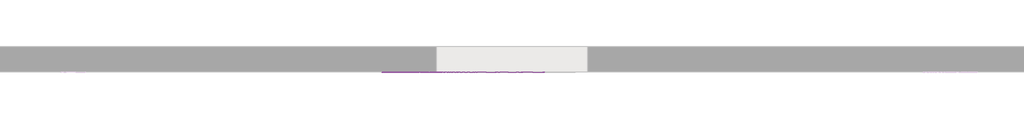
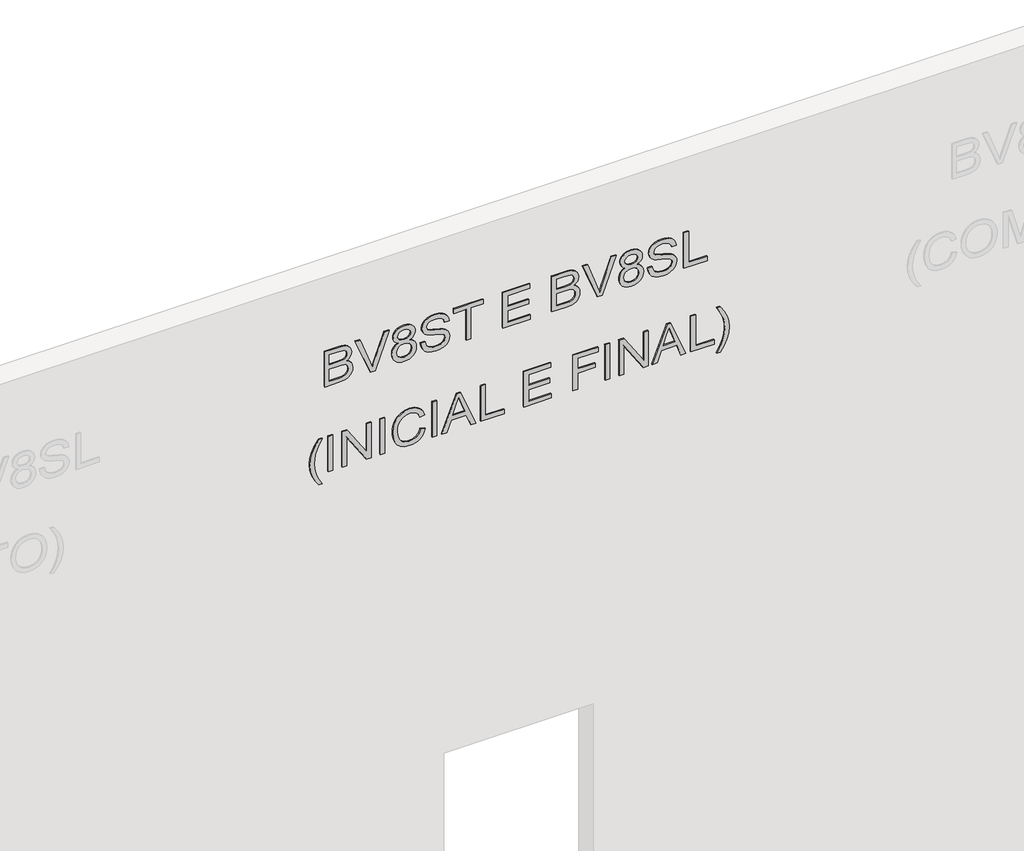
# One storey, part 4 of 5: 1 proxy.
"""IFC4 building model written with IfcOpenShell, lengths in millimetres."""

from ifc_helpers import new_model, si_unit, frame, origin, place, context, project, spatial, polyline, outline, extrude, element, save

model = new_model("IFC4")

# Units and contexts
model_context = context("Model", 3, world=origin())
ifc_project = project(units=[si_unit("LENGTHUNIT", "METRE", prefix="MILLI")], contexts=[model_context])

# Site, building, storey
site = spatial("IfcSite", under=ifc_project)
building = spatial("IfcBuilding", under=site)
storey = spatial("IfcBuildingStorey", under=building, Name="01 - Marelli - Planta Baixa - Painel Simples", Elevation=0.0)

# Proxy
placement = place(None, origin())
element("IfcBuildingElementProxy", 1, Name="300mm Arial", ObjectType="300mm Arial", at=placement, inside=storey, context=model_context, shape_type="SweptSolid", body=[
    extrude(outline(polyline([(6065.9244535, 17304.6035139), (6065.9244535, 17418.7205088), (6071.1115897, 17467.0234148), (6077.5311305, 17485.0588296), (6086.4154807, 17499.8017006), (6098.6843452, 17511.8406388), (6115.2574291, 17521.7642557), (6134.7459778, 17528.4137227), (6155.7612368, 17530.6302117), (6180.9795475, 17527.3836531), (6202.6294029, 17517.6439773), (6219.5887629, 17501.8710368), (6230.7355874, 17480.524684), (6242.4802201, 17498.3945519), (6257.407032, 17511.0956778), (6274.4675596, 17518.683244), (6292.613339, 17521.2124327), (6312.3318139, 17518.2049974), (6331.1673721, 17509.1826914), (6347.1794359, 17494.8536877), (6358.4274279, 17475.9261591), (6365.076895, 17451.2320801), (6367.293384, 17419.6034256), (6367.293384, 17304.6035139), (6065.9244535, 17304.6035139)]), holes=[polyline([(6244.862256, 17342.2746302), (6329.6222677, 17342.2746302), (6329.6222677, 17405.844639), (6325.6859303, 17454.2579095), (6320.084927, 17466.7475033), (6311.1545915, 17475.9629473), (6299.7134615, 17481.6467241), (6286.5800742, 17483.5413164), (6273.0512139, 17481.5087683), (6262.0423452, 17475.4111243), (6253.6822268, 17465.3035665), (6248.0996175, 17451.2412772), (6244.862256, 17411.0685633), (6244.862256, 17342.2746302)]), polyline([(6103.5955698, 17342.2746302), (6207.1911397, 17342.2746302), (6207.1911397, 17415.8510293), (6205.9311438, 17442.6788238), (6202.1511563, 17462.3881016), (6195.262566, 17476.3032381), (6184.6767616, 17485.7486083), (6171.1387042, 17491.1564737), (6155.3933548, 17492.9590954), (6141.8369032, 17491.4231881), (6130.0094971, 17486.8154661), (6113.2708663, 17471.1436931), (6105.0670978, 17447.4888808), (6103.5955698, 17419.5298492), (6103.5955698, 17342.2746302)])]), frame((0.0, 8778.3159498, 0.0), z_axis=(0.0, 1.0, 0.0), x_axis=(0.0, 0.0, 1.0)), (0.0, 0.0, 1.0), 10.0),
    extrude(outline(polyline([(6065.9244535, 17671.4554395), (6065.9244535, 17710.3773546), (6367.293384, 17825.2301135), (6367.293384, 17784.9102468), (6150.1694304, 17704.4176663), (6101.2411251, 17688.3780113), (6150.1694304, 17672.1176271), (6367.293384, 17591.8457757), (6367.293384, 17551.5259091), (6065.9244535, 17671.4554395)])), frame((0.0, 8778.3159498, 0.0), z_axis=(0.0, 1.0, 0.0), x_axis=(0.0, 0.0, 1.0)), (0.0, 0.0, 1.0), 10.0),
    extrude(outline(polyline([(6231.9128098, 17901.0138045), (6221.4281729, 17877.690086), (6204.5423893, 17860.3996322), (6182.0280112, 17849.6942662), (6154.6575908, 17846.1258108), (6135.5070337, 17847.827265), (6118.007347, 17852.9316277), (6102.1585308, 17861.4388989), (6087.960585, 17873.3490785), (6076.2596383, 17888.0367671), (6067.9018193, 17904.8765654), (6062.8871278, 17923.8684734), (6061.215564, 17945.0124911), (6062.88023, 17966.1565088), (6067.8742281, 17985.1484168), (6076.1975583, 18001.9882151), (6087.8502204, 18016.6759038), (6101.9492979, 18028.5860834), (6117.6118739, 18037.0933545), (6134.8379483, 18042.1977172), (6153.6275212, 18043.8991714), (6179.9770691, 18040.4686718), (6202.3718855, 18030.177173), (6219.965842, 18013.3005865), (6231.9128098, 17990.1148237), (6241.8180325, 18009.6401606), (6255.1997401, 18023.4817207), (6271.6348682, 18031.7314744), (6290.7003526, 18034.4813923), (6306.0962141, 18032.936288), (6320.278065, 18028.3009748), (6333.2459053, 18020.5754529), (6344.9997351, 18009.7597223), (6354.7532065, 17996.4102044), (6361.7199718, 17981.0833207), (6367.293384, 17944.4974563), (6361.8487305, 17908.1323211), (6355.0429135, 17892.9709844), (6345.5147699, 17879.8238016), (6333.9862678, 17869.201209), (6321.1793759, 17861.6136428), (6307.094094, 17857.0611031), (6291.7304222, 17855.5435899), (6272.0303413, 17858.330296), (6255.3101047, 17866.6904143), (6241.8456236, 17880.8446741), (6231.9128098, 17901.0138045)]), holes=[polyline([(6290.6267762, 17893.2147062), (6305.525997, 17896.6084176), (6318.1443494, 17906.7895518), (6326.7527881, 17923.1327095), (6329.6222677, 17945.0124911), (6326.6884088, 17966.754317), (6317.886832, 17983.1250658), (6304.781036, 17993.3889735), (6288.934519, 17996.810276), (6273.6674162, 17993.4993381), (6260.9754874, 17983.5665242), (6252.422231, 17967.4165046), (6249.5711455, 17945.4539495), (6252.4406251, 17922.9671626), (6261.0490638, 17906.5688226), (6274.182451, 17896.5532353), (6290.6267762, 17893.2147062)]), polyline([(6155.981966, 17883.7969271), (6177.9629152, 17887.7792497), (6195.9339506, 17899.7262175), (6207.9085096, 17918.7733078), (6211.9000292, 17944.0559979), (6207.8533273, 17969.9916786), (6195.7132214, 17989.6733653), (6177.3926981, 18002.0893827), (6154.8047436, 18006.2280551), (6132.5938681, 18002.2181414), (6114.6688179, 17990.1884001), (6102.8322147, 17970.9481718), (6098.8866803, 17945.3067967), (6100.7628785, 17928.5681659), (6106.391473, 17912.3445699), (6115.4505671, 17898.7973155), (6127.6182641, 17890.0877092), (6155.981966, 17883.7969271)])]), frame((0.0, 8778.3159498, 0.0), z_axis=(0.0, 1.0, 0.0), x_axis=(0.0, 0.0, 1.0)), (0.0, 0.0, 1.0), 10.0),
    extrude(outline(polyline([(6169.5200234, 18076.8613982), (6139.0961824, 18081.3311644), (6111.9832793, 18093.1217824), (6089.7264186, 18111.488291), (6073.8707046, 18135.6857292), (6064.3793492, 18166.063585), (6061.215564, 18202.9713461), (6064.1494229, 18233.0365022), (6072.9509996, 18259.9562672), (6087.0408801, 18282.3418866), (6105.83965, 18298.8046059), (6127.6826435, 18308.9305578), (6150.9051944, 18312.3058751), (6173.6219076, 18309.3720162), (6193.5059295, 18300.5704395), (6210.3733189, 18285.5884452), (6224.0401351, 18264.1133337), (6232.8509088, 18238.9869935), (6242.9492696, 18197.4531162), (6253.5810593, 18157.2068259), (6263.9921197, 18135.9432466), (6275.6355849, 18126.9485318), (6290.1117414, 18123.9502936), (6307.0894955, 18128.1809365), (6321.381711, 18140.8728653), (6331.0937957, 18162.8170264), (6334.3311572, 18194.8043658), (6331.0570075, 18226.0559413), (6321.2345582, 18248.5887135), (6305.0109622, 18263.0096877), (6282.5333723, 18269.9258693), (6282.5333723, 18307.5969856), (6307.4941657, 18303.3479485), (6329.6958441, 18292.6609766), (6347.9979733, 18275.775193), (6361.2601193, 18252.9297211), (6369.316735, 18225.1178422), (6372.0022735, 18193.3328379), (6369.4362966, 18163.9942487), (6361.7383659, 18137.488351), (6349.0832252, 18115.4062342), (6331.6456187, 18099.3389881), (6311.0718181, 18089.54413), (6289.0080954, 18086.2791773), (6269.2712264, 18088.9187306), (6251.5577083, 18096.8373905), (6236.198635, 18110.1271276), (6223.5251003, 18128.8799123), (6214.4660061, 18151.9185223), (6204.9470595, 18187.9249725), (6190.5628735, 18242.776178), (6182.7545782, 18258.8526212), (6173.4563607, 18268.3807649), (6162.5578566, 18273.0712603), (6149.9487012, 18274.6347588), (6137.0084521, 18272.5470285), (6124.6752082, 18266.2838375), (6113.9330539, 18255.7532154), (6105.7660736, 18240.8631916), (6100.6065286, 18222.487486), (6098.8866803, 18201.4998182), (6101.1583516, 18177.6610649), (6107.9733656, 18156.3239091), (6118.4763965, 18138.8679085), (6131.8121189, 18126.6726203), (6148.615129, 18118.8551279), (6169.5200234, 18114.5325145), (6169.5200234, 18076.8613982)])), frame((0.0, 8778.3159498, 0.0), z_axis=(0.0, 1.0, 0.0), x_axis=(0.0, 0.0, 1.0)), (0.0, 0.0, 1.0), 10.0),
    extrude(outline(polyline([(6065.9244535, 18444.1547822), (6065.9244535, 18481.8258985), (6329.6222677, 18481.8258985), (6329.6222677, 18580.7125788), (6367.293384, 18580.7125788), (6367.293384, 18345.2681019), (6329.6222677, 18345.2681019), (6329.6222677, 18444.1547822), (6065.9244535, 18444.1547822)])), frame((0.0, 8778.3159498, 0.0), z_axis=(0.0, 1.0, 0.0), x_axis=(0.0, 0.0, 1.0)), (0.0, 0.0, 1.0), 10.0),
    extrude(outline(polyline([(6065.9244535, 18740.8148231), (6065.9244535, 18962.1326314), (6103.5955698, 18962.1326314), (6103.5955698, 18778.4859394), (6202.4822501, 18778.4859394), (6202.4822501, 18948.0059628), (6240.1533665, 18948.0059628), (6240.1533665, 18778.4859394), (6329.6222677, 18778.4859394), (6329.6222677, 18957.4237418), (6367.293384, 18957.4237418), (6367.293384, 18740.8148231), (6065.9244535, 18740.8148231)])), frame((0.0, 8778.3159498, 0.0), z_axis=(0.0, 1.0, 0.0), x_axis=(0.0, 0.0, 1.0)), (0.0, 0.0, 1.0), 10.0),
    extrude(outline(polyline([(6065.9244535, 19136.3615443), (6065.9244535, 19250.4785392), (6071.1115897, 19298.7814452), (6077.5311305, 19316.81686), (6086.4154807, 19331.5597309), (6098.6843452, 19343.5986692), (6115.2574291, 19353.522286), (6134.7459778, 19360.1717531), (6155.7612368, 19362.3882421), (6180.9795475, 19359.1416835), (6202.6294029, 19349.4020077), (6219.5887629, 19333.6290672), (6230.7355874, 19312.2827144), (6242.4802201, 19330.1525823), (6257.407032, 19342.8537082), (6274.4675596, 19350.4412743), (6292.613339, 19352.9704631), (6312.3318139, 19349.9630277), (6331.1673721, 19340.9407218), (6347.1794359, 19326.6117181), (6358.4274279, 19307.6841894), (6365.076895, 19282.9901105), (6367.293384, 19251.361456), (6367.293384, 19136.3615443), (6065.9244535, 19136.3615443)]), holes=[polyline([(6244.862256, 19174.0326606), (6329.6222677, 19174.0326606), (6329.6222677, 19237.6026694), (6325.6859303, 19286.0159399), (6320.084927, 19298.5055337), (6311.1545915, 19307.7209776), (6299.7134615, 19313.4047545), (6286.5800742, 19315.2993467), (6273.0512139, 19313.2667987), (6262.0423452, 19307.1691547), (6253.6822268, 19297.0615968), (6248.0996175, 19282.9993076), (6244.862256, 19242.8265937), (6244.862256, 19174.0326606)]), polyline([(6103.5955698, 19174.0326606), (6207.1911397, 19174.0326606), (6207.1911397, 19247.6090596), (6205.9311438, 19274.4368541), (6202.1511563, 19294.146132), (6195.262566, 19308.0612685), (6184.6767616, 19317.5066387), (6171.1387042, 19322.914504), (6155.3933548, 19324.7171258), (6141.8369032, 19323.1812185), (6130.0094971, 19318.5734965), (6113.2708663, 19302.9017235), (6105.0670978, 19279.2469112), (6103.5955698, 19251.2878796), (6103.5955698, 19174.0326606)])]), frame((0.0, 8778.3159498, 0.0), z_axis=(0.0, 1.0, 0.0), x_axis=(0.0, 0.0, 1.0)), (0.0, 0.0, 1.0), 10.0),
    extrude(outline(polyline([(6065.9244535, 19503.2134699), (6065.9244535, 19542.135385), (6367.293384, 19656.9881439), (6367.293384, 19616.6682772), (6150.1694304, 19536.1756967), (6101.2411251, 19520.1360417), (6150.1694304, 19503.8756575), (6367.293384, 19423.6038061), (6367.293384, 19383.2839395), (6065.9244535, 19503.2134699)])), frame((0.0, 8778.3159498, 0.0), z_axis=(0.0, 1.0, 0.0), x_axis=(0.0, 0.0, 1.0)), (0.0, 0.0, 1.0), 10.0),
    extrude(outline(polyline([(6231.9128098, 19732.7718349), (6221.4281729, 19709.4481164), (6204.5423893, 19692.1576626), (6182.0280112, 19681.4522965), (6154.6575908, 19677.8838412), (6135.5070337, 19679.5852954), (6118.007347, 19684.6896581), (6102.1585308, 19693.1969292), (6087.960585, 19705.1071088), (6076.2596383, 19719.7947975), (6067.9018193, 19736.6345958), (6062.8871278, 19755.6265038), (6061.215564, 19776.7705215), (6062.88023, 19797.9145392), (6067.8742281, 19816.9064472), (6076.1975583, 19833.7462455), (6087.8502204, 19848.4339342), (6101.9492979, 19860.3441138), (6117.6118739, 19868.8513849), (6134.8379483, 19873.9557476), (6153.6275212, 19875.6572018), (6179.9770691, 19872.2267022), (6202.3718855, 19861.9352034), (6219.965842, 19845.0586169), (6231.9128098, 19821.8728541), (6241.8180325, 19841.398191), (6255.1997401, 19855.2397511), (6271.6348682, 19863.4895048), (6290.7003526, 19866.2394227), (6306.0962141, 19864.6943183), (6320.278065, 19860.0590052), (6333.2459053, 19852.3334833), (6344.9997351, 19841.5177527), (6354.7532065, 19828.1682348), (6361.7199718, 19812.8413511), (6367.293384, 19776.2554867), (6361.8487305, 19739.8903515), (6355.0429135, 19724.7290148), (6345.5147699, 19711.581832), (6333.9862678, 19700.9592393), (6321.1793759, 19693.3716732), (6307.094094, 19688.8191335), (6291.7304222, 19687.3016203), (6272.0303413, 19690.0883264), (6255.3101047, 19698.4484447), (6241.8456236, 19712.6027045), (6231.9128098, 19732.7718349)]), holes=[polyline([(6155.981966, 19715.5549575), (6177.9629152, 19719.5372801), (6195.9339506, 19731.4842479), (6207.9085096, 19750.5313382), (6211.9000292, 19775.8140283), (6207.8533273, 19801.749709), (6195.7132214, 19821.4313957), (6177.3926981, 19833.8474131), (6154.8047436, 19837.9860855), (6132.5938681, 19833.9761717), (6114.6688179, 19821.9464305), (6102.8322147, 19802.7062022), (6098.8866803, 19777.0648271), (6100.7628785, 19760.3261963), (6106.391473, 19744.1026003), (6115.4505671, 19730.5553459), (6127.6182641, 19721.8457396), (6155.981966, 19715.5549575)]), polyline([(6290.6267762, 19724.9727366), (6305.525997, 19728.366448), (6318.1443494, 19738.5475822), (6326.7527881, 19754.8907398), (6329.6222677, 19776.7705215), (6326.6884088, 19798.5123474), (6317.886832, 19814.8830962), (6304.781036, 19825.1470039), (6288.934519, 19828.5683064), (6273.6674162, 19825.2573685), (6260.9754874, 19815.3245546), (6252.422231, 19799.174535), (6249.5711455, 19777.2119799), (6252.4406251, 19754.7251929), (6261.0490638, 19738.326853), (6274.182451, 19728.3112657), (6290.6267762, 19724.9727366)])]), frame((0.0, 8778.3159498, 0.0), z_axis=(0.0, 1.0, 0.0), x_axis=(0.0, 0.0, 1.0)), (0.0, 0.0, 1.0), 10.0),
    extrude(outline(polyline([(6169.5200234, 19908.6194286), (6139.0961824, 19913.0891948), (6111.9832793, 19924.8798128), (6089.7264186, 19943.2463214), (6073.8707046, 19967.4437596), (6064.3793492, 19997.8216154), (6061.215564, 20034.7293765), (6064.1494229, 20064.7945326), (6072.9509996, 20091.7142976), (6087.0408801, 20114.099917), (6105.83965, 20130.5626363), (6127.6826435, 20140.6885882), (6150.9051944, 20144.0639055), (6173.6219076, 20141.1300466), (6193.5059295, 20132.3284698), (6210.3733189, 20117.3464756), (6224.0401351, 20095.8713641), (6232.8509088, 20070.7450238), (6242.9492696, 20029.2111466), (6253.5810593, 19988.9648563), (6263.9921197, 19967.701277), (6275.6355849, 19958.7065622), (6290.1117414, 19955.708324), (6307.0894955, 19959.9389669), (6321.381711, 19972.6308957), (6331.0937957, 19994.5750567), (6334.3311572, 20026.5623962), (6331.0570075, 20057.8139717), (6321.2345582, 20080.3467439), (6305.0109622, 20094.7677181), (6282.5333723, 20101.6838996), (6282.5333723, 20139.3550159), (6307.4941657, 20135.1059789), (6329.6958441, 20124.4190069), (6347.9979733, 20107.5332234), (6361.2601193, 20084.6877515), (6369.316735, 20056.8758726), (6372.0022735, 20025.0908682), (6369.4362966, 19995.7522791), (6361.7383659, 19969.2463814), (6349.0832252, 19947.1642646), (6331.6456187, 19931.0970185), (6311.0718181, 19921.3021604), (6289.0080954, 19918.0372076), (6269.2712264, 19920.676761), (6251.5577083, 19928.5954209), (6236.198635, 19941.885158), (6223.5251003, 19960.6379427), (6214.4660061, 19983.6765526), (6204.9470595, 20019.6830029), (6190.5628735, 20074.5342084), (6182.7545782, 20090.6106516), (6173.4563607, 20100.1387953), (6162.5578566, 20104.8292907), (6149.9487012, 20106.3927892), (6137.0084521, 20104.3050589), (6124.6752082, 20098.0418679), (6113.9330539, 20087.5112458), (6105.7660736, 20072.621222), (6100.6065286, 20054.2455164), (6098.8866803, 20033.2578485), (6101.1583516, 20009.4190952), (6107.9733656, 19988.0819395), (6118.4763965, 19970.6259389), (6131.8121189, 19958.4306507), (6148.615129, 19950.6131583), (6169.5200234, 19946.2905449), (6169.5200234, 19908.6194286)])), frame((0.0, 8778.3159498, 0.0), z_axis=(0.0, 1.0, 0.0), x_axis=(0.0, 0.0, 1.0)), (0.0, 0.0, 1.0), 10.0),
    extrude(outline(polyline([(6065.9244535, 20200.5705799), (6065.9244535, 20388.9261615), (6103.5955698, 20388.9261615), (6103.5955698, 20238.2416962), (6367.293384, 20238.2416962), (6367.293384, 20200.5705799), (6065.9244535, 20200.5705799)])), frame((0.0, 8778.3159498, 0.0), z_axis=(0.0, 1.0, 0.0), x_axis=(0.0, 0.0, 1.0)), (0.0, 0.0, 1.0), 10.0),
    extrude(outline(polyline([(5249.3155348, 17257.5146185), (5249.3155348, 17285.7679558), (5297.5540614, 17256.9260073), (5345.8109821, 17236.3246156), (5394.0862969, 17223.9637806), (5442.3800058, 17219.8435022), (5480.2534572, 17222.2163411), (5517.9429677, 17229.3348577), (5575.7740173, 17250.5248606), (5635.4444769, 17285.7679558), (5635.4444769, 17257.5146185), (5584.934279, 17222.8233464), (5534.2033518, 17198.5063465), (5489.4137189, 17186.2558761), (5442.600735, 17182.1723859), (5389.2210575, 17187.6354335), (5337.68079, 17204.0245764), (5290.2791949, 17228.3231822), (5249.3155348, 17257.5146185)])), frame((0.0, 8778.3159498, 0.0), z_axis=(0.0, 1.0, 0.0), x_axis=(0.0, 0.0, 1.0)), (0.0, 0.0, 1.0), 10.0),
    extrude(outline(polyline([(17370.5279674, 8778.3159498), (17332.8568511, 8778.3159498), (17332.8568511, 8788.3159498), (17370.5279674, 8788.3159498), (17370.5279674, 8778.3159498)])), frame((0.0, 0.0, 5334.0755465), z_axis=(0.0, 0.0, 1.0), x_axis=(1.0, 0.0, 0.0)), (0.0, 0.0, 1.0), 301.3689304),
    extrude(outline(polyline([(5334.0755465, 17445.8702001), (5334.0755465, 17483.5413164), (5572.9045377, 17483.5413164), (5334.0755465, 17640.9948103), (5334.0755465, 17681.314677), (5635.4444769, 17681.314677), (5635.4444769, 17643.6435607), (5396.689062, 17643.6435607), (5635.4444769, 17486.1900667), (5635.4444769, 17445.8702001), (5334.0755465, 17445.8702001)])), frame((0.0, 8778.3159498, 0.0), z_axis=(0.0, 1.0, 0.0), x_axis=(0.0, 0.0, 1.0)), (0.0, 0.0, 1.0), 10.0),
    extrude(outline(polyline([(17789.6191364, 8778.3159498), (17751.94802, 8778.3159498), (17751.94802, 8788.3159498), (17789.6191364, 8788.3159498), (17789.6191364, 8778.3159498)])), frame((0.0, 0.0, 5334.0755465), z_axis=(0.0, 0.0, 1.0), x_axis=(1.0, 0.0, 0.0)), (0.0, 0.0, 1.0), 301.3689304),
    extrude(outline(polyline([(5441.2027835, 18076.8613982), (5408.9395325, 18064.6753071), (5385.7261786, 18044.8924528), (5371.7098746, 18018.6900577), (5367.0377732, 17987.2453442), (5370.4682728, 17960.2703969), (5380.7597717, 17935.2636182), (5397.9858461, 17914.4047091), (5422.2200725, 17899.8733703), (5452.3128197, 17891.3477051), (5487.1144565, 17888.5058167), (5515.5333406, 17890.9062467), (5543.1060961, 17898.1075367), (5567.4966724, 17911.2317269), (5586.3690188, 17931.4008573), (5598.4539423, 17957.9803314), (5602.4822501, 17990.3355529), (5598.8494154, 18018.4049492), (5587.9509113, 18041.2504211), (5569.1061561, 18059.0926978), (5541.6345681, 18072.1525086), (5550.6108888, 18109.823625), (5588.4291579, 18093.1861617), (5603.751443, 18081.3840475), (5616.6824952, 18067.2596781), (5626.9510013, 18051.0797681), (5634.2856486, 18033.1110319), (5640.1533665, 17991.8070809), (5635.6192209, 17953.9520236), (5622.0167841, 17919.4079043), (5599.6771499, 17890.2808473), (5568.9314122, 17868.6769771), (5530.9843844, 17855.2952695), (5487.0408801, 17850.8347003), (5445.3782441, 17854.7802347), (5406.4747231, 17866.6168379), (5373.3837376, 17886.0042191), (5349.1587083, 17912.6020873), (5334.3146698, 17947.3025565), (5329.3666569, 17990.9977405), (5331.0014325, 18013.4201481), (5335.9057594, 18034.0399339), (5344.0796375, 18052.857098), (5355.5230668, 18069.8716403), (5370.0796975, 18084.7478685), (5387.5931797, 18097.1500902), (5408.0635135, 18107.0783056), (5431.4906988, 18114.5325145), (5441.2027835, 18076.8613982)])), frame((0.0, 8778.3159498, 0.0), z_axis=(0.0, 1.0, 0.0), x_axis=(0.0, 0.0, 1.0)), (0.0, 0.0, 1.0), 10.0),
    extrude(outline(polyline([(18208.7103053, 8778.3159498), (18171.039189, 8778.3159498), (18171.039189, 8788.3159498), (18208.7103053, 8788.3159498), (18208.7103053, 8778.3159498)])), frame((0.0, 0.0, 5334.0755465), z_axis=(0.0, 0.0, 1.0), x_axis=(1.0, 0.0, 0.0)), (0.0, 0.0, 1.0), 301.3689304),
    extrude(outline(polyline([(5334.0755465, 18248.9565955), (5334.0755465, 18288.7614274), (5428.2533372, 18323.1951822), (5428.2533372, 18447.3185673), (5334.0755465, 18481.8258985), (5334.0755465, 18521.6307304), (5635.4444769, 18401.3333179), (5635.4444769, 18369.254008), (5334.0755465, 18248.9565955)]), holes=[polyline([(5465.9244535, 18337.0275452), (5546.4906105, 18366.5316812), (5597.7733606, 18385.2936629), (5540.0158874, 18406.4100895), (5465.9244535, 18433.5597807), (5465.9244535, 18337.0275452)])]), frame((0.0, 8778.3159498, 0.0), z_axis=(0.0, 1.0, 0.0), x_axis=(0.0, 0.0, 1.0)), (0.0, 0.0, 1.0), 10.0),
    extrude(outline(polyline([(5334.0755465, 18561.8770206), (5334.0755465, 18750.2326022), (5371.7466628, 18750.2326022), (5371.7466628, 18599.5481369), (5635.4444769, 18599.5481369), (5635.4444769, 18561.8770206), (5334.0755465, 18561.8770206)])), frame((0.0, 8778.3159498, 0.0), z_axis=(0.0, 1.0, 0.0), x_axis=(0.0, 0.0, 1.0)), (0.0, 0.0, 1.0), 10.0),
    extrude(outline(polyline([(5334.0755465, 18910.3348465), (5334.0755465, 19131.6526548), (5371.7466628, 19131.6526548), (5371.7466628, 18948.0059628), (5470.6333431, 18948.0059628), (5470.6333431, 19117.5259861), (5508.3044594, 19117.5259861), (5508.3044594, 18948.0059628), (5597.7733606, 18948.0059628), (5597.7733606, 19126.9437652), (5635.4444769, 19126.9437652), (5635.4444769, 18910.3348465), (5334.0755465, 18910.3348465)])), frame((0.0, 8778.3159498, 0.0), z_axis=(0.0, 1.0, 0.0), x_axis=(0.0, 0.0, 1.0)), (0.0, 0.0, 1.0), 10.0),
    extrude(outline(polyline([(5334.0755465, 19305.8815677), (5334.0755465, 19343.552684), (5470.6333431, 19343.552684), (5470.6333431, 19484.8193701), (5508.3044594, 19484.8193701), (5508.3044594, 19343.552684), (5597.7733606, 19343.552684), (5597.7733606, 19508.3638178), (5635.4444769, 19508.3638178), (5635.4444769, 19305.8815677), (5334.0755465, 19305.8815677)])), frame((0.0, 8778.3159498, 0.0), z_axis=(0.0, 1.0, 0.0), x_axis=(0.0, 0.0, 1.0)), (0.0, 0.0, 1.0), 10.0),
    extrude(outline(polyline([(19602.5416086, 8778.3159498), (19564.8704923, 8778.3159498), (19564.8704923, 8788.3159498), (19602.5416086, 8788.3159498), (19602.5416086, 8778.3159498)])), frame((0.0, 0.0, 5334.0755465), z_axis=(0.0, 0.0, 1.0), x_axis=(1.0, 0.0, 0.0)), (0.0, 0.0, 1.0), 301.3689304),
    extrude(outline(polyline([(5334.0755465, 19677.8838412), (5334.0755465, 19715.5549575), (5572.9045377, 19715.5549575), (5334.0755465, 19873.0084514), (5334.0755465, 19913.3283181), (5635.4444769, 19913.3283181), (5635.4444769, 19875.6572018), (5396.689062, 19875.6572018), (5635.4444769, 19718.2037079), (5635.4444769, 19677.8838412), (5334.0755465, 19677.8838412)])), frame((0.0, 8778.3159498, 0.0), z_axis=(0.0, 1.0, 0.0), x_axis=(0.0, 0.0, 1.0)), (0.0, 0.0, 1.0), 10.0),
    extrude(outline(polyline([(5334.0755465, 19944.1568293), (5334.0755465, 19983.9616612), (5428.2533372, 20018.3954159), (5428.2533372, 20142.5188011), (5334.0755465, 20177.0261323), (5334.0755465, 20216.8309641), (5635.4444769, 20096.5335517), (5635.4444769, 20064.4542417), (5334.0755465, 19944.1568293)]), holes=[polyline([(5465.9244535, 20032.227779), (5546.4906105, 20061.731915), (5597.7733606, 20080.4938967), (5540.0158874, 20101.6103232), (5465.9244535, 20128.7600145), (5465.9244535, 20032.227779)])]), frame((0.0, 8778.3159498, 0.0), z_axis=(0.0, 1.0, 0.0), x_axis=(0.0, 0.0, 1.0)), (0.0, 0.0, 1.0), 10.0),
    extrude(outline(polyline([(5334.0755465, 20257.0772544), (5334.0755465, 20445.4328359), (5371.7466628, 20445.4328359), (5371.7466628, 20294.7483707), (5635.4444769, 20294.7483707), (5635.4444769, 20257.0772544), (5334.0755465, 20257.0772544)])), frame((0.0, 8778.3159498, 0.0), z_axis=(0.0, 1.0, 0.0), x_axis=(0.0, 0.0, 1.0)), (0.0, 0.0, 1.0), 10.0),
    extrude(outline(polyline([(5249.3155348, 20492.5217313), (5290.2791949, 20521.5752119), (5337.68079, 20545.9014088), (5389.2210575, 20562.3733251), (5442.600735, 20567.8639639), (5489.4137189, 20563.7804738), (5534.2033518, 20551.5300033), (5584.934279, 20527.2130035), (5635.4444769, 20492.5217313), (5635.4444769, 20464.2683941), (5575.1854061, 20499.7322184), (5546.8400984, 20511.7067774), (5517.2807801, 20520.7014921), (5479.9775458, 20527.8200088), (5442.3800058, 20530.1928476), (5394.0862969, 20526.0725693), (5345.8109821, 20513.7117342), (5297.5540614, 20493.1103425), (5249.3155348, 20464.2683941), (5249.3155348, 20492.5217313)])), frame((0.0, 8778.3159498, 0.0), z_axis=(0.0, 1.0, 0.0), x_axis=(0.0, 0.0, 1.0)), (0.0, 0.0, 1.0), 10.0),
])

save(model, "model.ifc")
